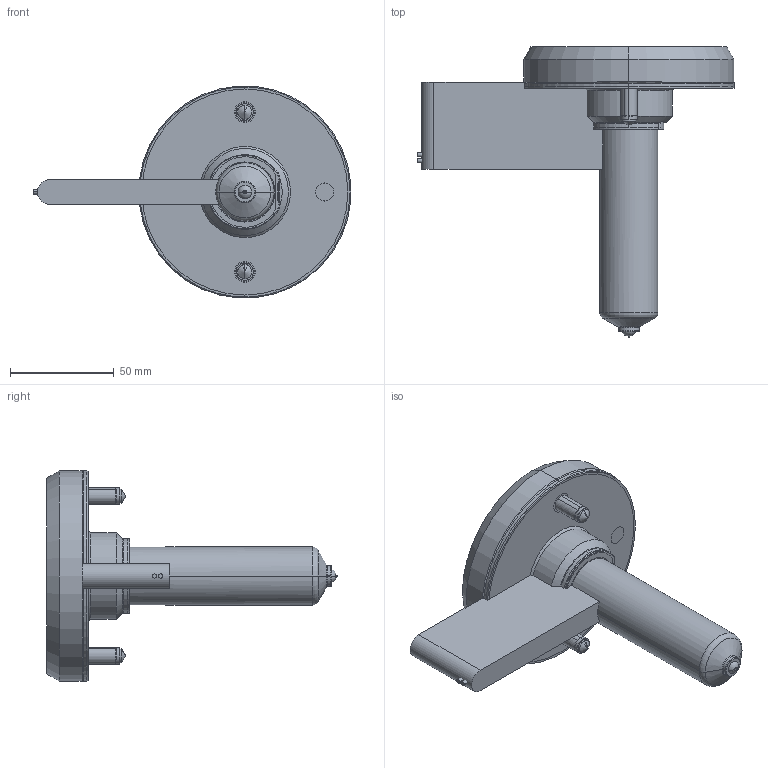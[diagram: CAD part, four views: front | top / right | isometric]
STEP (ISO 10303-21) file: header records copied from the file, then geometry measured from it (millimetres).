
FILE_DESCRIPTION (( 'STEP AP214' ), '1' );
FILE_NAME ('SOHSB6100-SOPGA06.STEP', '2024-11-29T06:28:27', ( '' ), ( '' ), 'SwSTEP 2.0', 'SolidWorks 2022', '' );
FILE_SCHEMA (( 'AUTOMOTIVE_DESIGN' ));
Length unit declared in the file: millimetre
Products named in the file (11): SOHSB6100-SOPGA06; hexagon socket head cap screws gb_GB_FASTENER_SCREWS_HSHCS M8X25-C; EcoONE-HSB06-Point Gate standard Tip Assembly_SOPGA06; EcoONE-HSB06-06004_SONH18095; EcoONE-HSB06-Point Gate Needle Tip-Standard_SOPGN0601; EcoONE-HSB06-06003(A)_SOHSBNB6100; EcoONE-HSB06-Open Gate Cut-out Details_Point Gate; EcoONE-HSB06-06006(A)_SONHC06; EcoONE-HSB06-00002(A)_SOHSBLR06; EcoONE-HSB06-06005_SOTC10200-J; EcoONE-HSB06-Open Gate Bodiless Retainer Tip_SOBRT0601
Assembly tree (12 placements, depth 3):
  SOHSB6100-SOPGA06
    EcoONE-HSB06-06003(A)_SOHSBNB6100
    EcoONE-HSB06-06004_SONH18095
    EcoONE-HSB06-06005_SOTC10200-J
    EcoONE-HSB06-06006(A)_SONHC06  x2
    EcoONE-HSB06-00002(A)_SOHSBLR06
    hexagon socket head cap screws gb_GB_FASTENER_SCREWS_HSHCS M8X25-C  x2
    EcoONE-HSB06-Point Gate standard Tip Assembly_SOPGA06
      EcoONE-HSB06-Open Gate Bodiless Retainer Tip_SOBRT0601
      EcoONE-HSB06-Point Gate Needle Tip-Standard_SOPGN0601
    EcoONE-HSB06-Open Gate Cut-out Details_Point Gate
Bounding box: 153.01 x 140 x 102.14 mm (x, y, z)
Volume: 324789.4 mm3; surface area: 93921.8 mm2
Topology: 11 solids, 11 shells, 490 faces, 1228 edges, 774 vertices
Faces by surface type: cylinder 152, plane 133, bspline 96, cone 77, torus 24, sphere 8
Entity records: 28256 total; most frequent: CARTESIAN_POINT 17312, ORIENTED_EDGE 2244, DIRECTION 1897, EDGE_CURVE 1122, AXIS2_PLACEMENT_3D 768, VERTEX_POINT 713, EDGE_LOOP 489, FACE_OUTER_BOUND 449
